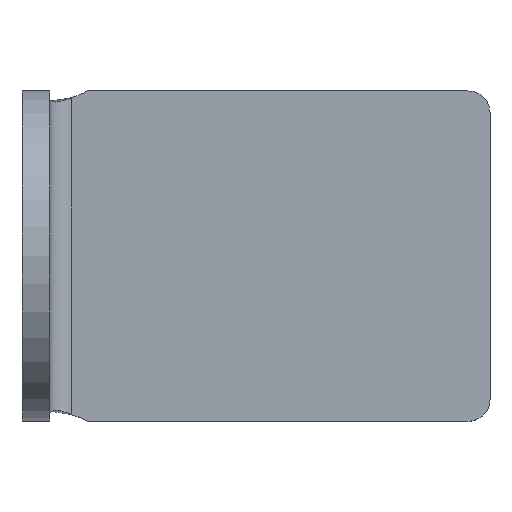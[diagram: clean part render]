
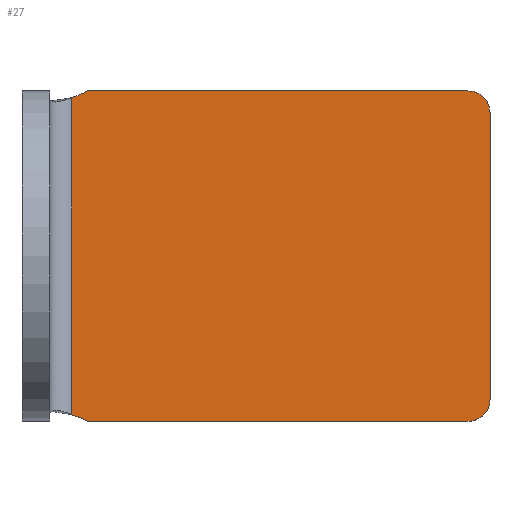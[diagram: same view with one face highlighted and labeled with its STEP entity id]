
A CAD part, top view. The second image highlights one B-rep face of the part: STEP entity #27.
In plain terms, the highlighted planar face has unit normal (0, 0, 1).
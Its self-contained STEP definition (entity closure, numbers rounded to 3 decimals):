
#27 = ADVANCED_FACE ( 'NONE', ( #497 ), #433, .F. ) ;
#28 = ORIENTED_EDGE ( 'NONE', *, *, #240, .T. ) ;
#29 = EDGE_CURVE ( 'NONE', #45, #143, #599, .T. ) ;
#43 = ORIENTED_EDGE ( 'NONE', *, *, #122, .T. ) ;
#44 = EDGE_CURVE ( 'NONE', #45, #127, #526, .T. ) ;
#45 = VERTEX_POINT ( 'NONE', #590 ) ;
#46 = EDGE_LOOP ( 'NONE', ( #487, #47, #28, #55, #92, #43, #95, #56 ) ) ;
#47 = ORIENTED_EDGE ( 'NONE', *, *, #29, .T. ) ;
#48 = EDGE_CURVE ( 'NONE', #490, #127, #527, .T. ) ;
#55 = ORIENTED_EDGE ( 'NONE', *, *, #161, .T. ) ;
#56 = ORIENTED_EDGE ( 'NONE', *, *, #48, .T. ) ;
#92 = ORIENTED_EDGE ( 'NONE', *, *, #255, .T. ) ;
#95 = ORIENTED_EDGE ( 'NONE', *, *, #223, .T. ) ;
#122 = EDGE_CURVE ( 'NONE', #261, #164, #775, .T. ) ;
#127 = VERTEX_POINT ( 'NONE', #778 ) ;
#143 = VERTEX_POINT ( 'NONE', #635 ) ;
#144 = VERTEX_POINT ( 'NONE', #623 ) ;
#155 = VERTEX_POINT ( 'NONE', #629 ) ;
#161 = EDGE_CURVE ( 'NONE', #144, #155, #614, .T. ) ;
#164 = VERTEX_POINT ( 'NONE', #739 ) ;
#223 = EDGE_CURVE ( 'NONE', #164, #490, #856, .T. ) ;
#240 = EDGE_CURVE ( 'NONE', #143, #144, #1032, .T. ) ;
#255 = EDGE_CURVE ( 'NONE', #155, #261, #961, .T. ) ;
#261 = VERTEX_POINT ( 'NONE', #1080 ) ;
#433 = PLANE ( 'NONE',  #495 ) ;
#469 = DIRECTION ( 'NONE',  ( 1., 0., 0. ) ) ;
#470 = DIRECTION ( 'NONE',  ( 0., 0., -1. ) ) ;
#473 = AXIS2_PLACEMENT_3D ( 'NONE', #528, #470, #469 ) ;
#475 = VECTOR ( 'NONE', #524, 1000. ) ;
#487 = ORIENTED_EDGE ( 'NONE', *, *, #44, .F. ) ;
#490 = VERTEX_POINT ( 'NONE', #1106 ) ;
#495 = AXIS2_PLACEMENT_3D ( 'NONE', #593, #592, #591 ) ;
#497 = FACE_OUTER_BOUND ( 'NONE', #46, .T. ) ;
#524 = DIRECTION ( 'NONE',  ( 0., 1., 0. ) ) ;
#525 = CARTESIAN_POINT ( 'NONE',  ( 21.106, 0., 0. ) ) ;
#526 = LINE ( 'NONE', #525, #475 ) ;
#527 = CIRCLE ( 'NONE', #473, 8.5 ) ;
#528 = CARTESIAN_POINT ( 'NONE',  ( 18.553, 22.5, 0. ) ) ;
#536 = DIRECTION ( 'NONE',  ( -1., 0., 0. ) ) ;
#589 = AXIS2_PLACEMENT_3D ( 'NONE', #597, #598, #536 ) ;
#590 = CARTESIAN_POINT ( 'NONE',  ( 21.106, -14.392, 0. ) ) ;
#591 = DIRECTION ( 'NONE',  ( -1., 0., 0. ) ) ;
#592 = DIRECTION ( 'NONE',  ( 0., 0., -1. ) ) ;
#593 = CARTESIAN_POINT ( 'NONE',  ( 0., 0., 0. ) ) ;
#597 = CARTESIAN_POINT ( 'NONE',  ( 18.553, -22.5, 0. ) ) ;
#598 = DIRECTION ( 'NONE',  ( 0., 0., -1. ) ) ;
#599 = CIRCLE ( 'NONE', #589, 8.5 ) ;
#614 = CIRCLE ( 'NONE', #740, 2. ) ;
#623 = CARTESIAN_POINT ( 'NONE',  ( 57.106, -15., 0. ) ) ;
#629 = CARTESIAN_POINT ( 'NONE',  ( 59.106, -13., 0. ) ) ;
#635 = CARTESIAN_POINT ( 'NONE',  ( 22.553, -15., 0. ) ) ;
#734 = DIRECTION ( 'NONE',  ( 1., 0., 0. ) ) ;
#735 = DIRECTION ( 'NONE',  ( 0., 0., 1. ) ) ;
#739 = CARTESIAN_POINT ( 'NONE',  ( 57.106, 15., 0. ) ) ;
#740 = AXIS2_PLACEMENT_3D ( 'NONE', #746, #735, #734 ) ;
#746 = CARTESIAN_POINT ( 'NONE',  ( 57.106, -13., 0. ) ) ;
#771 = DIRECTION ( 'NONE',  ( -1., 0., 0. ) ) ;
#772 = DIRECTION ( 'NONE',  ( 0., 0., 1. ) ) ;
#773 = CARTESIAN_POINT ( 'NONE',  ( 57.106, 13., 0. ) ) ;
#774 = AXIS2_PLACEMENT_3D ( 'NONE', #773, #772, #771 ) ;
#775 = CIRCLE ( 'NONE', #774, 2. ) ;
#778 = CARTESIAN_POINT ( 'NONE',  ( 21.106, 14.392, 0. ) ) ;
#853 = DIRECTION ( 'NONE',  ( -1., 0., 0. ) ) ;
#854 = VECTOR ( 'NONE', #853, 1000. ) ;
#855 = CARTESIAN_POINT ( 'NONE',  ( 22.553, 15., 0. ) ) ;
#856 = LINE ( 'NONE', #855, #854 ) ;
#961 = LINE ( 'NONE', #1079, #1078 ) ;
#1029 = DIRECTION ( 'NONE',  ( 1., 0., 0. ) ) ;
#1030 = VECTOR ( 'NONE', #1029, 1000. ) ;
#1031 = CARTESIAN_POINT ( 'NONE',  ( 22.553, -15., 0. ) ) ;
#1032 = LINE ( 'NONE', #1031, #1030 ) ;
#1077 = DIRECTION ( 'NONE',  ( 0., 1., 0. ) ) ;
#1078 = VECTOR ( 'NONE', #1077, 1000. ) ;
#1079 = CARTESIAN_POINT ( 'NONE',  ( 59.106, 13., 0. ) ) ;
#1080 = CARTESIAN_POINT ( 'NONE',  ( 59.106, 13., 0. ) ) ;
#1106 = CARTESIAN_POINT ( 'NONE',  ( 22.553, 15., 0. ) ) ;
